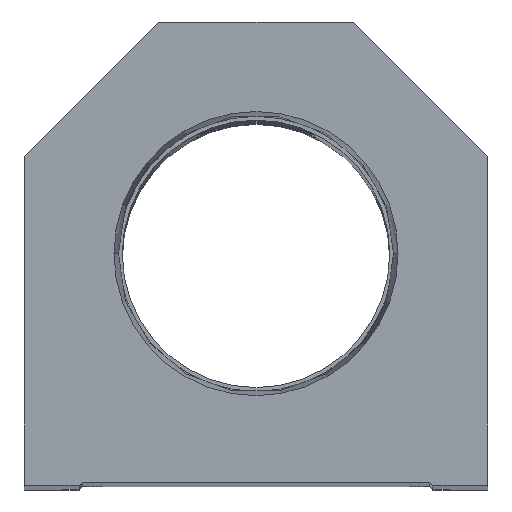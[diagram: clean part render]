
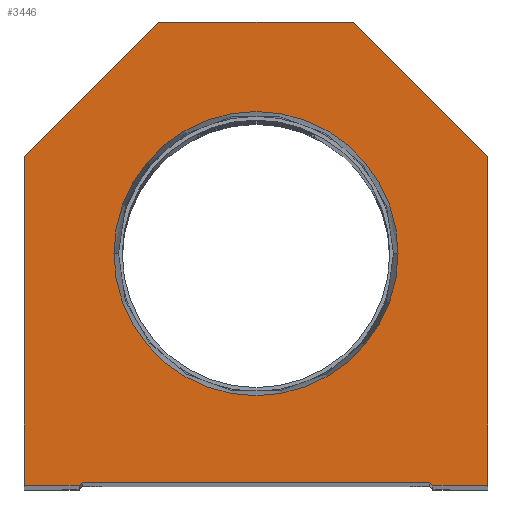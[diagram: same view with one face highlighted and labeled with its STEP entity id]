
A CAD part, top view. The second image highlights one B-rep face of the part: STEP entity #3446.
In plain terms, the highlighted planar face has unit normal (0, 0, 1).
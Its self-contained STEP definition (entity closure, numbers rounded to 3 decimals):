
#552 = VERTEX_POINT ( 'NONE', #4460 ) ;
#730 = DIRECTION ( 'NONE',  ( 1., 0., 0. ) ) ;
#934 = DIRECTION ( 'NONE',  ( 1., 0., 0. ) ) ;
#1128 = VERTEX_POINT ( 'NONE', #5524 ) ;
#1265 = CARTESIAN_POINT ( 'NONE',  ( -28.6, 0., 0. ) ) ;
#1685 = CARTESIAN_POINT ( 'NONE',  ( -38.1, 54.1, 0. ) ) ;
#1694 = VECTOR ( 'NONE', #10440, 1000. ) ;
#1804 = VERTEX_POINT ( 'NONE', #4388 ) ;
#2397 = CARTESIAN_POINT ( 'NONE',  ( 16., 76.2, 0. ) ) ;
#2455 = EDGE_CURVE ( 'NONE', #552, #5079, #8947, .T. ) ;
#2708 = CARTESIAN_POINT ( 'NONE',  ( -28.6, 0.5, 0. ) ) ;
#2710 = ORIENTED_EDGE ( 'NONE', *, *, #11827, .T. ) ;
#2987 = VERTEX_POINT ( 'NONE', #14171 ) ;
#2997 = ORIENTED_EDGE ( 'NONE', *, *, #21940, .T. ) ;
#3130 = ORIENTED_EDGE ( 'NONE', *, *, #10141, .T. ) ;
#3335 = EDGE_LOOP ( 'NONE', ( #7073, #5139, #2710, #2997, #3340, #12642, #14570, #15316, #3130, #19039 ) ) ;
#3340 = ORIENTED_EDGE ( 'NONE', *, *, #16014, .T. ) ;
#3446 = ADVANCED_FACE ( 'NONE', ( #16836, #13520 ), #18653, .T. ) ;
#3632 = VERTEX_POINT ( 'NONE', #16367 ) ;
#3667 = LINE ( 'NONE', #17121, #1694 ) ;
#3755 = LINE ( 'NONE', #13888, #18727 ) ;
#3969 = VECTOR ( 'NONE', #5965, 1000. ) ;
#4388 = CARTESIAN_POINT ( 'NONE',  ( 23.374, 38.1, 0. ) ) ;
#4460 = CARTESIAN_POINT ( 'NONE',  ( 16., 76.2, 0. ) ) ;
#4694 = EDGE_LOOP ( 'NONE', ( #19158, #9837 ) ) ;
#4845 = CARTESIAN_POINT ( 'NONE',  ( 0., 0., 0. ) ) ;
#4867 = CARTESIAN_POINT ( 'NONE',  ( 0., 38.1, 0. ) ) ;
#5079 = VERTEX_POINT ( 'NONE', #5849 ) ;
#5139 = ORIENTED_EDGE ( 'NONE', *, *, #9312, .T. ) ;
#5524 = CARTESIAN_POINT ( 'NONE',  ( -38.1, 0., 0. ) ) ;
#5626 = CARTESIAN_POINT ( 'NONE',  ( -38.1, 0., 0. ) ) ;
#5785 = VECTOR ( 'NONE', #16943, 1000. ) ;
#5849 = CARTESIAN_POINT ( 'NONE',  ( -16., 76.2, 0. ) ) ;
#5965 = DIRECTION ( 'NONE',  ( 0., -1., 0. ) ) ;
#6140 = LINE ( 'NONE', #13101, #10062 ) ;
#6231 = DIRECTION ( 'NONE',  ( 1., 0., 0. ) ) ;
#6502 = AXIS2_PLACEMENT_3D ( 'NONE', #4845, #11771, #6231 ) ;
#6550 = CARTESIAN_POINT ( 'NONE',  ( -29.1, 0., 0. ) ) ;
#6844 = CIRCLE ( 'NONE', #13040, 23.374 ) ;
#7073 = ORIENTED_EDGE ( 'NONE', *, *, #20352, .T. ) ;
#7148 = DIRECTION ( 'NONE',  ( 1., 0., 0. ) ) ;
#8632 = LINE ( 'NONE', #15604, #17894 ) ;
#8947 = LINE ( 'NONE', #2397, #11535 ) ;
#9187 = CARTESIAN_POINT ( 'NONE',  ( 0., 38.1, 0. ) ) ;
#9312 = EDGE_CURVE ( 'NONE', #12290, #13069, #17056, .T. ) ;
#9837 = ORIENTED_EDGE ( 'NONE', *, *, #19445, .F. ) ;
#10062 = VECTOR ( 'NONE', #21945, 1000. ) ;
#10141 = EDGE_CURVE ( 'NONE', #5079, #14362, #17248, .T. ) ;
#10197 = CARTESIAN_POINT ( 'NONE',  ( 38.1, 54.1, 0. ) ) ;
#10440 = DIRECTION ( 'NONE',  ( 0., 1., 0. ) ) ;
#10628 = DIRECTION ( 'NONE',  ( -1., 0., 0. ) ) ;
#11535 = VECTOR ( 'NONE', #10628, 1000. ) ;
#11771 = DIRECTION ( 'NONE',  ( 0., 0., 1. ) ) ;
#11827 = EDGE_CURVE ( 'NONE', #13069, #22275, #3755, .T. ) ;
#12002 = CARTESIAN_POINT ( 'NONE',  ( -14.55, 14.55, 0. ) ) ;
#12019 = DIRECTION ( 'NONE',  ( 0., 0., 1. ) ) ;
#12290 = VERTEX_POINT ( 'NONE', #6550 ) ;
#12387 = CARTESIAN_POINT ( 'NONE',  ( 28.6, 0., 0. ) ) ;
#12642 = ORIENTED_EDGE ( 'NONE', *, *, #15624, .T. ) ;
#13040 = AXIS2_PLACEMENT_3D ( 'NONE', #4867, #12019, #20900 ) ;
#13069 = VERTEX_POINT ( 'NONE', #2708 ) ;
#13101 = CARTESIAN_POINT ( 'NONE',  ( 38.1, 54.1, 0. ) ) ;
#13520 = FACE_OUTER_BOUND ( 'NONE', #3335, .T. ) ;
#13639 = AXIS2_PLACEMENT_3D ( 'NONE', #9187, #18093, #21601 ) ;
#13888 = CARTESIAN_POINT ( 'NONE',  ( -28.6, 0.5, 0. ) ) ;
#14011 = CIRCLE ( 'NONE', #13639, 23.374 ) ;
#14171 = CARTESIAN_POINT ( 'NONE',  ( -23.374, 38.1, 0. ) ) ;
#14362 = VERTEX_POINT ( 'NONE', #16730 ) ;
#14437 = VECTOR ( 'NONE', #730, 1000. ) ;
#14570 = ORIENTED_EDGE ( 'NONE', *, *, #16860, .T. ) ;
#14901 = EDGE_CURVE ( 'NONE', #1804, #2987, #14011, .T. ) ;
#15316 = ORIENTED_EDGE ( 'NONE', *, *, #2455, .T. ) ;
#15396 = VECTOR ( 'NONE', #15542, 1000. ) ;
#15542 = DIRECTION ( 'NONE',  ( -0.707, -0.707, 0. ) ) ;
#15604 = CARTESIAN_POINT ( 'NONE',  ( 14.55, 14.55, 0. ) ) ;
#15624 = EDGE_CURVE ( 'NONE', #3632, #17448, #3667, .T. ) ;
#16014 = EDGE_CURVE ( 'NONE', #16662, #3632, #19461, .T. ) ;
#16367 = CARTESIAN_POINT ( 'NONE',  ( 38.1, 0., 0. ) ) ;
#16391 = VECTOR ( 'NONE', #934, 1000. ) ;
#16662 = VERTEX_POINT ( 'NONE', #18008 ) ;
#16730 = CARTESIAN_POINT ( 'NONE',  ( -38.1, 54.1, 0. ) ) ;
#16833 = LINE ( 'NONE', #1265, #16391 ) ;
#16836 = FACE_BOUND ( 'NONE', #4694, .T. ) ;
#16860 = EDGE_CURVE ( 'NONE', #17448, #552, #6140, .T. ) ;
#16943 = DIRECTION ( 'NONE',  ( 0.707, 0.707, 0. ) ) ;
#17056 = LINE ( 'NONE', #12002, #5785 ) ;
#17121 = CARTESIAN_POINT ( 'NONE',  ( 38.1, 0., 0. ) ) ;
#17248 = LINE ( 'NONE', #1685, #15396 ) ;
#17448 = VERTEX_POINT ( 'NONE', #10197 ) ;
#17894 = VECTOR ( 'NONE', #19114, 1000. ) ;
#18008 = CARTESIAN_POINT ( 'NONE',  ( 29.1, 0., 0. ) ) ;
#18093 = DIRECTION ( 'NONE',  ( 0., 0., 1. ) ) ;
#18545 = EDGE_CURVE ( 'NONE', #14362, #1128, #19650, .T. ) ;
#18653 = PLANE ( 'NONE',  #6502 ) ;
#18727 = VECTOR ( 'NONE', #7148, 1000. ) ;
#19039 = ORIENTED_EDGE ( 'NONE', *, *, #18545, .T. ) ;
#19114 = DIRECTION ( 'NONE',  ( 0.707, -0.707, 0. ) ) ;
#19158 = ORIENTED_EDGE ( 'NONE', *, *, #14901, .F. ) ;
#19445 = EDGE_CURVE ( 'NONE', #2987, #1804, #6844, .T. ) ;
#19461 = LINE ( 'NONE', #12387, #14437 ) ;
#19650 = LINE ( 'NONE', #5626, #3969 ) ;
#20352 = EDGE_CURVE ( 'NONE', #1128, #12290, #16833, .T. ) ;
#20900 = DIRECTION ( 'NONE',  ( 1., 0., 0. ) ) ;
#21352 = CARTESIAN_POINT ( 'NONE',  ( 28.6, 0.5, 0. ) ) ;
#21601 = DIRECTION ( 'NONE',  ( 1., 0., 0. ) ) ;
#21940 = EDGE_CURVE ( 'NONE', #22275, #16662, #8632, .T. ) ;
#21945 = DIRECTION ( 'NONE',  ( -0.707, 0.707, 0. ) ) ;
#22275 = VERTEX_POINT ( 'NONE', #21352 ) ;
